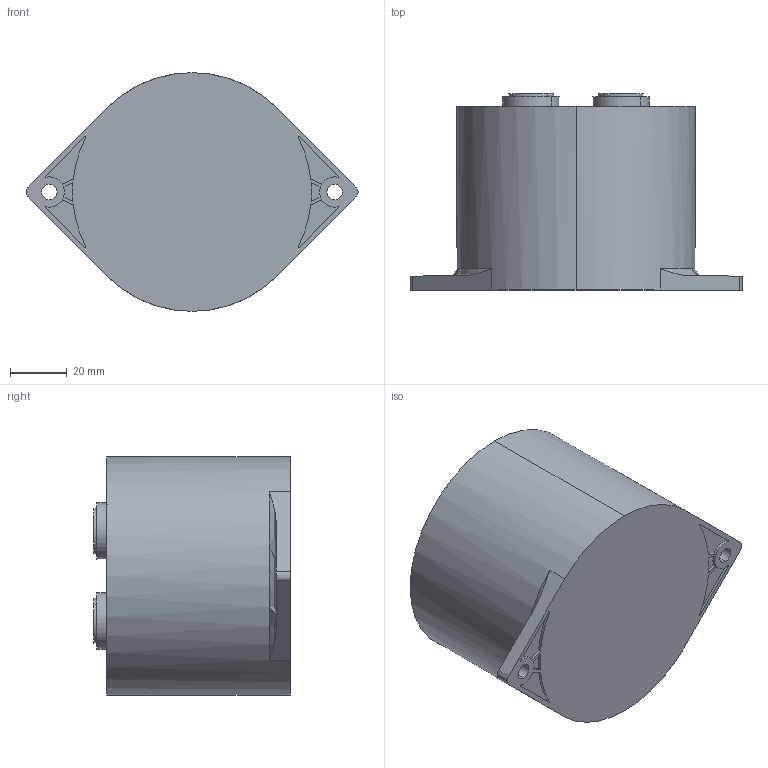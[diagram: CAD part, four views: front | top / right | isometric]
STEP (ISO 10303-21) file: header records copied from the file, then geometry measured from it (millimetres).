
FILE_DESCRIPTION (( 'STEP AP203' ), '1' );
FILE_NAME ('B25632E_65X69.STEP', '2021-11-02T05:37:35', ( '' ), ( '' ), 'SwSTEP 2.0', 'SolidWorks 2017', '' );
FILE_SCHEMA (( 'CONFIG_CONTROL_DESIGN' ));
Length unit declared in the file: millimetre
Products named in the file (1): B25632E_65X69
Bounding box: 117.48 x 69.5 x 84.5 mm (x, y, z)
Volume: 55856.2 mm3; surface area: 58799 mm2
Topology: 1 solids, 4 shells, 223 faces, 561 edges, 364 vertices
Faces by surface type: cylinder 105, plane 100, cone 16, torus 2
Entity records: 6802 total; most frequent: DIRECTION 1221, CARTESIAN_POINT 1173, ORIENTED_EDGE 1114, EDGE_CURVE 557, AXIS2_PLACEMENT_3D 444, VERTEX_POINT 364, VECTOR 333, LINE 333
